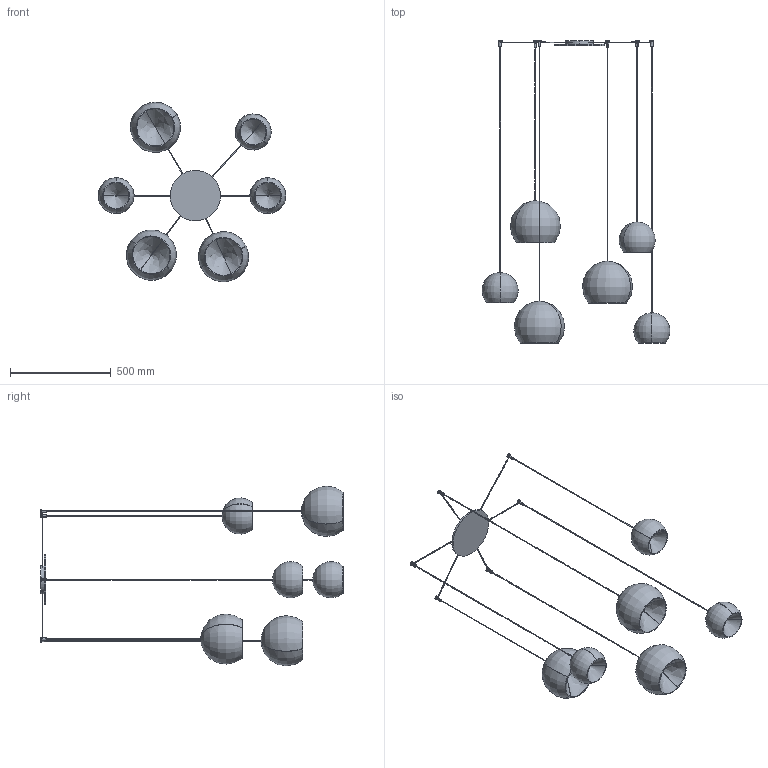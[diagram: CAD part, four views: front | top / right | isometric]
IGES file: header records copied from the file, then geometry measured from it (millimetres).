
Start section: SolidWorks IGES file using analytic representation for surfaces
Global section: file name: Y:\eforma\TECNICO\SOLIDWORKS\E-FORMA\09-LAMPADE\CHERRY MIX\02 parts\CRM06-00-CHERRY MIX_6 sospensione.IGS; native system: SolidWorks 2022; preprocessor: SolidWorks 2022; author: eforma.tech; date: 250506.093436; units: millimetre
Bounding box: 932.44 x 1500 x 891.55 mm (x, y, z)
Volume: 2466096.3 mm3; surface area: 2067435.3 mm2
Topology: 31 solids, 31 shells, 235 faces, 494 edges, 310 vertices
Faces by surface type: revolution 160, plane 75
